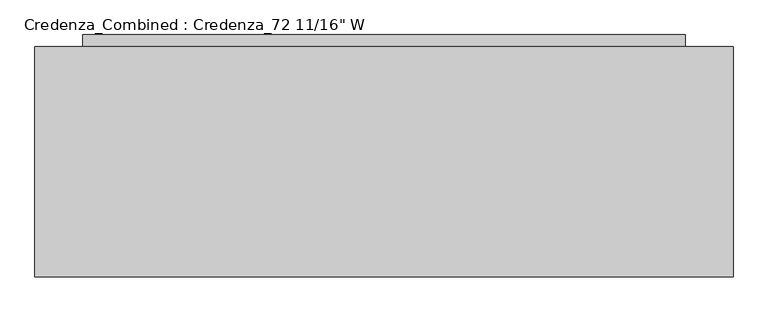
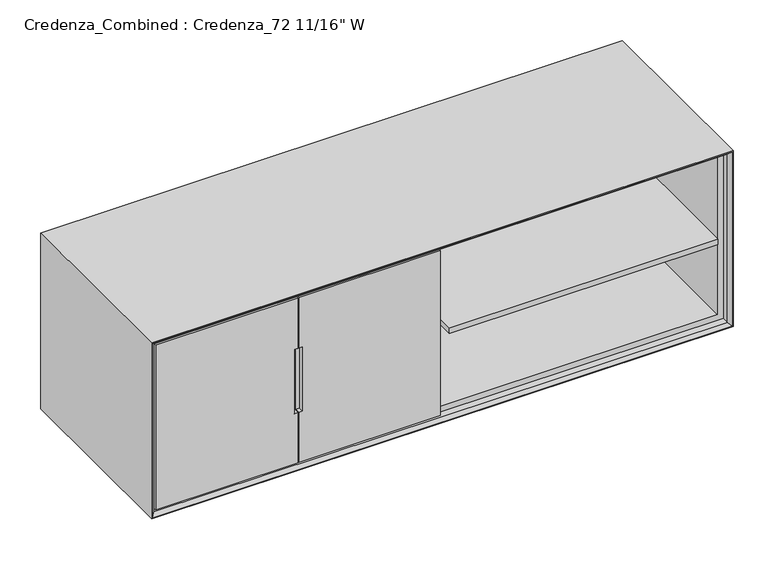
"""IFC4 building model written with IfcOpenShell, lengths in millimetres: furniture geometry."""

import ifcopenshell
import ifcopenshell.guid

model = None  # the IFC model being written
_history = None  # IfcOwnerHistory: only IFC2X3 demands one
_inside = {}  # id of a spatial element -> (the spatial element, [elements in it])
_under = {}  # id of a project, library or spatial element -> (it, [spatial elements below it])
_declared = {}  # id of a project -> (the project, [libraries it declares])
_typed = {}  # id of a type object -> (the type object, [elements of that type])
_made_of = {}  # id of a material, layer set ... -> (it, [elements and type objects made of it])


def new_model(schema):
    """Start an empty IFC model of exactly this schema.

    Asked for "IFC4X3", IfcOpenShell would pick the latest addendum, in which some entities
    have other attributes; the version numbers below select the first issue.
    IFC2X3 requires an IfcOwnerHistory on every rooted entity: one is made here for all.
    """
    global model, _history
    if schema == "IFC4X3":
        model = ifcopenshell.file(schema_version=(4, 3, 0, 0))
    else:
        model = ifcopenshell.file(schema=schema)
    _inside.clear()
    _under.clear()
    _declared.clear()
    _typed.clear()
    _made_of.clear()
    _history = None
    if model.schema == "IFC2X3":
        org = make("IfcOrganization", Name="unknown")
        user = make(
            "IfcPersonAndOrganization",
            ThePerson=make("IfcPerson", FamilyName="unknown"),
            TheOrganization=org,
        )
        app = make(
            "IfcApplication",
            ApplicationDeveloper=org,
            Version="unknown",
            ApplicationFullName="unknown",
            ApplicationIdentifier="unknown",
        )
        _history = make(
            "IfcOwnerHistory",
            OwningUser=user,
            OwningApplication=app,
            ChangeAction="ADDED",
            CreationDate=0,
        )
    return model


def make(cls, **values):
    """One entity of the class cls with the attributes given. An attribute that is None is left unset."""
    return model.create_entity(
        cls, **{name: value for name, value in values.items() if value is not None}
    )


def rooted(cls, **values):
    """An entity with a GlobalId (a new one), such as an element, a storey or a relation."""
    return make(cls, GlobalId=ifcopenshell.guid.new(), OwnerHistory=_history, **values)


def si_unit(unit_type, name, prefix=None):
    """IfcSIUnit, for example si_unit("LENGTHUNIT", "METRE", prefix="MILLI")."""
    return make("IfcSIUnit", UnitType=unit_type, Prefix=prefix, Name=name)


def assignment(units):
    """IfcUnitAssignment: the units of a project."""
    return None if units is None else make("IfcUnitAssignment", Units=units)


def point(xyz):
    """IfcCartesianPoint."""
    return None if xyz is None else make("IfcCartesianPoint", Coordinates=xyz)


def direction(xyz):
    """IfcDirection."""
    return None if xyz is None else make("IfcDirection", DirectionRatios=xyz)


def frame(location, z_axis=None, x_axis=None):
    """IfcAxis2Placement3D, a coordinate frame: its origin and axes. An axis left out is left unset."""
    return make(
        "IfcAxis2Placement3D",
        Location=point(location),
        Axis=direction(z_axis),
        RefDirection=direction(x_axis),
    )


def origin():
    """The frame at (0, 0, 0) with its axes left unset."""
    return frame((0.0, 0.0, 0.0))


def origin_with_axes():
    """The frame at (0, 0, 0) with the z axis (0, 0, 1) and the x axis (1, 0, 0) written out."""
    return frame((0.0, 0.0, 0.0), z_axis=(0.0, 0.0, 1.0), x_axis=(1.0, 0.0, 0.0))


def place(relative_to, where):
    """IfcLocalPlacement: puts the frame where relative to a parent placement (None: the world)."""
    return make(
        "IfcLocalPlacement", PlacementRelTo=relative_to, RelativePlacement=where
    )


def context(
    kind, dimensions, precision=None, world=None, true_north=None, identifier=None
):
    """IfcGeometricRepresentationContext, for example the 3D "Model" context."""
    return make(
        "IfcGeometricRepresentationContext",
        ContextIdentifier=identifier,
        ContextType=kind,
        CoordinateSpaceDimension=dimensions,
        Precision=precision,
        WorldCoordinateSystem=world,
        TrueNorth=true_north,
    )


def project(units=None, contexts=None):
    """IfcProject with its units and contexts."""
    return rooted(
        "IfcProject",
        Name="project",
        RepresentationContexts=contexts,
        UnitsInContext=assignment(units),
    )


def spatial(cls, under=None, at=None, **own):
    """A site, building, storey or space (cls), placed at a placement, below another one or the project."""
    s = rooted(cls, ObjectPlacement=at, **own)
    if under is not None:
        _under.setdefault(under.id(), (under, []))[1].append(s)
    return s


def polyline(points):
    """IfcPolyline through the points."""
    return make("IfcPolyline", Points=[point(p) for p in points])


def outline(outer, holes=None, kind="AREA"):
    """IfcArbitraryClosedProfileDef: a profile drawn as a closed curve; with holes, ...WithVoids."""
    if holes is None:
        return make("IfcArbitraryClosedProfileDef", ProfileType=kind, OuterCurve=outer)
    return make(
        "IfcArbitraryProfileDefWithVoids",
        ProfileType=kind,
        OuterCurve=outer,
        InnerCurves=holes,
    )


def extrude(swept, where, along, depth):
    """IfcExtrudedAreaSolid: the profile swept, set in the frame where, extruded along a direction by depth."""
    return make(
        "IfcExtrudedAreaSolid",
        SweptArea=swept,
        Position=where,
        ExtrudedDirection=direction(along),
        Depth=depth,
    )


def faces_of(points, faces, orient=None, outer=None):
    """IfcFace entities. A face is a list of loops; a loop is a list of indices into points, from 0.

    orient and outer hold one flag for each loop. By default every Orientation is true, the
    first loop of a face is its IfcFaceOuterBound and the others are IfcFaceBound.
    """
    made = []
    for i, loops in enumerate(faces):
        bounds = []
        for j, loop in enumerate(loops):
            is_outer = j == 0 if outer is None else outer[i][j]
            bounds.append(
                make(
                    "IfcFaceOuterBound" if is_outer else "IfcFaceBound",
                    Bound=make("IfcPolyLoop", Polygon=[points[k] for k in loop]),
                    Orientation=True if orient is None else orient[i][j],
                )
            )
        made.append(make("IfcFace", Bounds=bounds))
    return made


def faceted_brep(points, faces, orient=None, outer=None, voids=None):
    """IfcFacetedBrep: a solid bounded by flat faces; with voids (closed shells), ...WithVoids."""
    shared = [point(p) for p in points]
    hull = make("IfcClosedShell", CfsFaces=faces_of(shared, faces, orient, outer))
    if voids is None:
        return make("IfcFacetedBrep", Outer=hull)
    return make(
        "IfcFacetedBrepWithVoids",
        Outer=hull,
        Voids=[
            make(cls, CfsFaces=faces_of(shared, fs, o, b)) for cls, fs, o, b in voids
        ],
    )


def shape(context_of_items, identifier, shape_type, items):
    """IfcShapeRepresentation: the items that make up one representation, for example the "Body"."""
    return make(
        "IfcShapeRepresentation",
        ContextOfItems=context_of_items,
        RepresentationIdentifier=identifier,
        RepresentationType=shape_type,
        Items=items,
    )


def source(mapping_origin, context_of_items, identifier, shape_type, items):
    """IfcRepresentationMap: a shape defined once, which mapped items show again and again."""
    return make(
        "IfcRepresentationMap",
        MappingOrigin=mapping_origin,
        MappedRepresentation=shape(context_of_items, identifier, shape_type, items),
    )


def transform(
    local_origin,
    x_axis=None,
    y_axis=None,
    z_axis=None,
    scale=None,
    scale2=None,
    scale3=None,
    uniform=True,
):
    """IfcCartesianTransformationOperator3D, or its non-uniform kind. x_axis, y_axis, z_axis: its Axis1, 2, 3."""
    if uniform:
        return make(
            "IfcCartesianTransformationOperator3D",
            Axis1=direction(x_axis),
            Axis2=direction(y_axis),
            LocalOrigin=point(local_origin),
            Scale=scale,
            Axis3=direction(z_axis),
        )
    return make(
        "IfcCartesianTransformationOperator3DnonUniform",
        Axis1=direction(x_axis),
        Axis2=direction(y_axis),
        LocalOrigin=point(local_origin),
        Scale=scale,
        Axis3=direction(z_axis),
        Scale2=scale2,
        Scale3=scale3,
    )


def mapped(mapping_source, mapping_target):
    """IfcMappedItem: shows the shape of a source again, moved by a transform."""
    return make(
        "IfcMappedItem", MappingSource=mapping_source, MappingTarget=mapping_target
    )


def made_of(thing, what):
    """Note that an element or type object is made of a material, layer set ...; save() writes the relation."""
    if what is not None:
        _made_of.setdefault(what.id(), (what, []))[1].append(thing)
    return thing


def element(
    cls,
    number,
    at=None,
    inside=None,
    cuts=None,
    type_object=None,
    material=None,
    context=None,
    identifier="Body",
    shape_type=None,
    held_by="IfcProductDefinitionShape",
    body=None,
    shapes=None,
    **own,
):
    """One element of the class cls, such as IfcWall. Its Tag is "e" and its number.

    at: its placement. inside: the storey or other place that contains it. cuts: it is an
    opening in that element (IfcRelVoidsElement). A single representation is given by context,
    identifier, shape_type and body (its items); several are given by shapes. held_by: the class
    of the entity that holds the representations. save() writes the other relations.
    """
    e = rooted(cls, Tag="e%d" % number, ObjectPlacement=at, **own)
    if body is not None:
        shapes = [shape(context, identifier, shape_type, body)]
    if shapes is not None:
        e.Representation = make(held_by, Representations=shapes)
    if inside is not None:
        _inside.setdefault(inside.id(), (inside, []))[1].append(e)
    if cuts is not None:
        rooted(
            "IfcRelVoidsElement", RelatingBuildingElement=cuts, RelatedOpeningElement=e
        )
    if type_object is not None:
        _typed.setdefault(type_object.id(), (type_object, []))[1].append(e)
    return made_of(e, material)


def aggregate(whole, parts):
    """IfcRelAggregates: a whole, such as a stair, and the parts it consists of."""
    return rooted("IfcRelAggregates", RelatingObject=whole, RelatedObjects=parts)


def save(model, path):
    """Write the relations noted so far, then the file.

    IfcRelAggregates (storeys below a building ...), IfcRelContainedInSpatialStructure (elements
    in a storey), IfcRelDefinesByType, IfcRelAssociatesMaterial and IfcRelDeclares: one each for
    every whole, place, type object, material and project.
    """
    for whole, parts in _under.values():
        aggregate(whole, parts)
    for where, things in _inside.values():
        rooted(
            "IfcRelContainedInSpatialStructure",
            RelatedElements=things,
            RelatingStructure=where,
        )
    for kind, things in _typed.values():
        rooted("IfcRelDefinesByType", RelatedObjects=things, RelatingType=kind)
    for what, things in _made_of.values():
        rooted("IfcRelAssociatesMaterial", RelatedObjects=things, RelatingMaterial=what)
    for by, libraries in _declared.values():
        rooted("IfcRelDeclares", RelatingContext=by, RelatedDefinitions=libraries)
    model.write(path)


def furniture_1c651b8b(model_context):
    return source(origin(), model_context, "Body", "SolidModel", [
        extrude(outline(polyline([(1803.4, 609.6), (1803.4, 9.525), (950.9125, 9.525), (950.9125, 609.6), (1803.4, 609.6)])), frame((0.0, 0.0, 371.475), z_axis=(0.0, 0.0, 1.0), x_axis=(1.0, 0.0, 0.0)), (0.0, 0.0, 1.0), 19.05),
        extrude(outline(polyline([(1719.2625, 609.6), (1719.2625, 241.3), (127.0, 241.3), (127.0, 609.6), (1719.2625, 609.6)])), origin_with_axes(), (0.0, 0.0, 1.0), 87.3125),
        extrude(outline(polyline([(1719.2625, 641.35), (1719.2625, 609.6), (127.0, 609.6), (127.0, 641.35), (1719.2625, 641.35)])), origin_with_axes(), (0.0, 0.0, 1.0), 647.7),
        extrude(outline(polyline([(665.1625, 1833.5625), (665.1625, 12.7), (100.0125, 12.7), (100.0125, 1833.5625), (665.1625, 1833.5625)]), holes=[polyline([(646.1125, 31.75), (646.1125, 1814.5125), (119.0625, 1814.5125), (119.0625, 31.75), (646.1125, 31.75)])]), frame((0.0, 31.75, 0.0), z_axis=(0.0, 1.0, 0.0), x_axis=(0.0, 0.0, 1.0)), (0.0, 0.0, 1.0), 577.85),
        faceted_brep([(1833.5625, 9.525, 665.1625), (1833.5625, 609.6, 665.1625), (1833.5625, 609.6, 100.0125), (1833.5625, 9.525, 100.0125), (1843.0875, 0.0, 674.6875), (1843.0875, 0.0, 90.4875), (1846.2625, 609.6, 677.8625), (1846.2625, 0.0, 677.8625), (1846.2625, 0.0, 87.3125), (1846.2625, 609.6, 87.3125), (12.7, 609.6, 100.0125), (12.7, 9.525, 100.0125), (3.175, 0.0, 90.4875), (0.0, 0.0, 87.3125), (0.0, 609.6, 87.3125), (12.7, 609.6, 665.1625), (12.7, 9.525, 665.1625), (3.175, 0.0, 674.6875), (0.0, 0.0, 677.8625), (0.0, 609.6, 677.8625)], [[[0, 1, 2, 3]], [[4, 0, 3, 5]], [[6, 7, 8, 9]], [[3, 2, 10, 11]], [[5, 3, 11, 12]], [[9, 8, 13, 14]], [[11, 10, 15, 16]], [[12, 11, 16, 17]], [[14, 13, 18, 19]], [[9, 14, 19, 6], [1, 15, 10, 2]], [[16, 15, 1, 0]], [[17, 16, 0, 4]], [[7, 18, 13, 8], [5, 12, 17, 4]], [[19, 18, 7, 6]]]),
        faceted_brep([(469.10625, 28.575, 659.60625), (19.05, 28.575, 659.60625), (19.05, 9.525, 659.60625), (469.10625, 9.525, 659.60625), (469.10625, 28.575, 105.56875), (469.10625, 9.525, 105.56875), (19.05, 9.525, 105.56875), (19.05, 28.575, 105.56875), (457.99375, 25.4, 490.5375), (457.99375, 25.4, 274.6375), (469.10625, 25.4, 274.6375), (469.10625, 25.4, 490.5375), (469.10625, 9.525, 274.6375), (457.99375, 9.525, 274.6375), (457.99375, 9.525, 490.5375), (469.10625, 9.525, 490.5375)], [[[0, 1, 2, 3]], [[4, 5, 6, 7]], [[1, 0, 4, 7]], [[2, 1, 7, 6]], [[8, 9, 10, 11]], [[3, 2, 6, 5, 12, 13, 14, 15]], [[0, 3, 15, 11, 10, 12, 5, 4]], [[14, 8, 11, 15]], [[9, 8, 14, 13]], [[9, 13, 12, 10]]]),
        faceted_brep([(472.28125, 9.525, 659.60625), (922.3375, 9.525, 659.60625), (922.3375, 28.575, 659.60625), (472.28125, 28.575, 659.60625), (472.28125, 9.525, 105.56875), (472.28125, 28.575, 105.56875), (922.3375, 28.575, 105.56875), (922.3375, 9.525, 105.56875), (472.28125, 9.525, 490.5375), (483.39375, 9.525, 490.5375), (483.39375, 9.525, 274.6375), (472.28125, 9.525, 274.6375), (483.39375, 25.4, 274.6375), (483.39375, 25.4, 490.5375), (472.28125, 25.4, 490.5375), (472.28125, 25.4, 274.6375)], [[[0, 1, 2, 3]], [[4, 5, 6, 7]], [[1, 0, 8, 9, 10, 11, 4, 7]], [[2, 1, 7, 6]], [[12, 13, 14, 15]], [[3, 2, 6, 5]], [[0, 3, 5, 4, 11, 15, 14, 8]], [[13, 9, 8, 14]], [[10, 12, 15, 11]], [[13, 12, 10, 9]]]),
        extrude(outline(polyline([(922.3375, 609.6), (922.3375, 28.575), (19.05, 28.575), (19.05, 609.6), (922.3375, 609.6)])), frame((0.0, 0.0, 382.5875), z_axis=(0.0, 0.0, 1.0), x_axis=(1.0, 0.0, 0.0)), (0.0, 0.0, 1.0), 19.05),
    ])


if __name__ == "__main__":
    model = new_model("IFC4")
    model_context = context("Model", 3, world=origin())
    ifc_project = project(units=[si_unit("LENGTHUNIT", "METRE", prefix="MILLI")], contexts=[model_context])
    site = spatial("IfcSite", under=ifc_project)
    building = spatial("IfcBuilding", under=site)
    placement = place(None, origin())
    furniture_shape = furniture_1c651b8b(model_context)
    element("IfcFurniture", 1, ObjectType="Credenza_Combined : Credenza_72 11/16\" W", at=placement, inside=building, context=model_context, shape_type="MappedRepresentation", body=[
        mapped(furniture_shape, transform((0.0, 0.0, 0.0), x_axis=(1.0, 0.0, 0.0), y_axis=(0.0, 1.0, 0.0), z_axis=(0.0, 0.0, 1.0))),
    ])
    save(model, "model.ifc")
